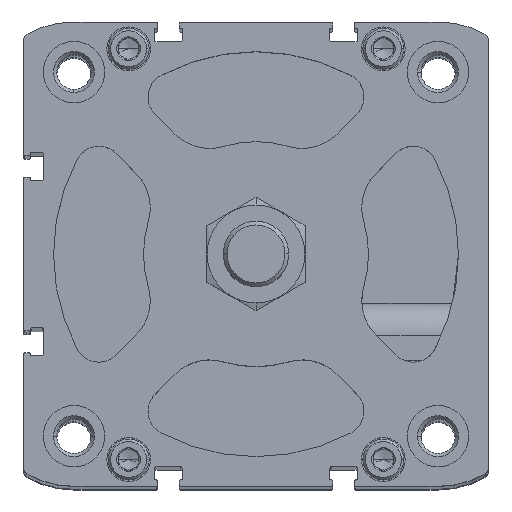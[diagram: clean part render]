
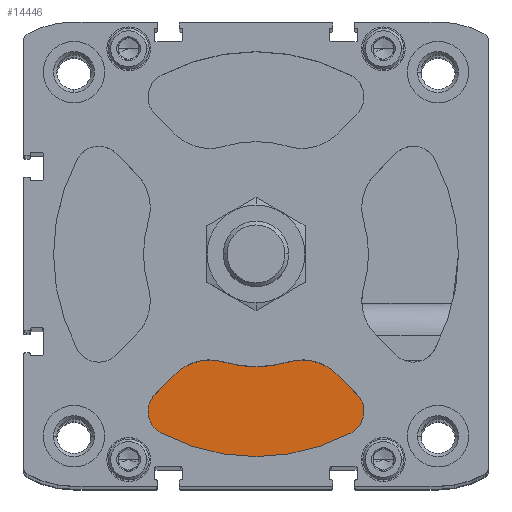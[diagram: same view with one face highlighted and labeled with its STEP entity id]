
A CAD part, top view. The second image highlights one B-rep face of the part: STEP entity #14446.
In plain terms, the highlighted planar face has unit normal (0, 0, 1).
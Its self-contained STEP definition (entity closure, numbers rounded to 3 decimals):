
#390 = DIRECTION ( 'NONE',  ( -1., 0., 0. ) ) ;
#1203 = DIRECTION ( 'NONE',  ( 0., 0., 1. ) ) ;
#1362 = CIRCLE ( 'NONE', #3765, 12. ) ;
#1727 = CIRCLE ( 'NONE', #5835, 6. ) ;
#1740 = FACE_OUTER_BOUND ( 'NONE', #9192, .T. ) ;
#1784 = CARTESIAN_POINT ( 'NONE',  ( 7.885, -26.345, -18.8 ) ) ;
#2201 = DIRECTION ( 'NONE',  ( 0., 0., 1. ) ) ;
#2217 = EDGE_CURVE ( 'NONE', #6511, #14412, #12546, .T. ) ;
#2557 = DIRECTION ( 'NONE',  ( 0., 0., 1. ) ) ;
#2593 = AXIS2_PLACEMENT_3D ( 'NONE', #11536, #7989, #9707 ) ;
#2849 = LINE ( 'NONE', #11113, #11635 ) ;
#2973 = CARTESIAN_POINT ( 'NONE',  ( -20.393, -38.424, -18.8 ) ) ;
#3248 = CARTESIAN_POINT ( 'NONE',  ( -23.205, -43.724, -18.8 ) ) ;
#3340 = CARTESIAN_POINT ( 'NONE',  ( 24.635, -34.181, -18.8 ) ) ;
#3553 = EDGE_CURVE ( 'NONE', #14273, #6511, #2849, .T. ) ;
#3749 = CARTESIAN_POINT ( 'NONE',  ( -24.635, -34.181, -18.8 ) ) ;
#3765 = AXIS2_PLACEMENT_3D ( 'NONE', #15341, #2557, #5459 ) ;
#4056 = CARTESIAN_POINT ( 'NONE',  ( 23.205, -43.724, -18.8 ) ) ;
#4356 = EDGE_CURVE ( 'NONE', #5201, #14663, #12944, .T. ) ;
#4781 = VECTOR ( 'NONE', #16287, 1000. ) ;
#5201 = VERTEX_POINT ( 'NONE', #3340 ) ;
#5459 = DIRECTION ( 'NONE',  ( -1., 0., 0. ) ) ;
#5835 = AXIS2_PLACEMENT_3D ( 'NONE', #2973, #11142, #7817 ) ;
#6244 = DIRECTION ( 'NONE',  ( -1., 0., 0. ) ) ;
#6511 = VERTEX_POINT ( 'NONE', #3749 ) ;
#6679 = EDGE_CURVE ( 'NONE', #16863, #14273, #1362, .T. ) ;
#6719 = EDGE_CURVE ( 'NONE', #14412, #11785, #1727, .T. ) ;
#6774 = AXIS2_PLACEMENT_3D ( 'NONE', #14503, #1203, #6244 ) ;
#6784 = DIRECTION ( 'NONE',  ( 1., 0., 0. ) ) ;
#7178 = ORIENTED_EDGE ( 'NONE', *, *, #2217, .T. ) ;
#7394 = CIRCLE ( 'NONE', #17355, 27.5 ) ;
#7432 = CARTESIAN_POINT ( 'NONE',  ( -19.81, -29.356, -18.8 ) ) ;
#7434 = DIRECTION ( 'NONE',  ( 0., 0., 1. ) ) ;
#7722 = AXIS2_PLACEMENT_3D ( 'NONE', #8754, #2201, #20262 ) ;
#7799 = CARTESIAN_POINT ( 'NONE',  ( 24.635, -34.181, -18.8 ) ) ;
#7817 = DIRECTION ( 'NONE',  ( -1., 0., 0. ) ) ;
#7989 = DIRECTION ( 'NONE',  ( 0., 0., 1. ) ) ;
#8287 = PLANE ( 'NONE',  #9907 ) ;
#8754 = CARTESIAN_POINT ( 'NONE',  ( -20.393, -38.424, -18.8 ) ) ;
#9192 = EDGE_LOOP ( 'NONE', ( #10949, #14572, #20624, #14225, #15031, #19018, #14516, #7178, #19300 ) ) ;
#9684 = CARTESIAN_POINT ( 'NONE',  ( -26.393, -38.424, -18.8 ) ) ;
#9707 = DIRECTION ( 'NONE',  ( -1., 0., 0. ) ) ;
#9804 = CIRCLE ( 'NONE', #12880, 49.5 ) ;
#9907 = AXIS2_PLACEMENT_3D ( 'NONE', #14939, #16347, #6784 ) ;
#10663 = DIRECTION ( 'NONE',  ( -1., 0., 0. ) ) ;
#10949 = ORIENTED_EDGE ( 'NONE', *, *, #17336, .T. ) ;
#11113 = CARTESIAN_POINT ( 'NONE',  ( -19.81, -29.356, -18.8 ) ) ;
#11142 = DIRECTION ( 'NONE',  ( 0., 0., 1. ) ) ;
#11454 = CARTESIAN_POINT ( 'NONE',  ( -7.885, -26.345, -18.8 ) ) ;
#11536 = CARTESIAN_POINT ( 'NONE',  ( 20.393, -38.424, -18.8 ) ) ;
#11635 = VECTOR ( 'NONE', #14440, 1000. ) ;
#11785 = VERTEX_POINT ( 'NONE', #3248 ) ;
#12202 = EDGE_CURVE ( 'NONE', #14663, #16884, #19446, .T. ) ;
#12546 = CIRCLE ( 'NONE', #7722, 6. ) ;
#12880 = AXIS2_PLACEMENT_3D ( 'NONE', #20239, #16597, #390 ) ;
#12944 = LINE ( 'NONE', #7799, #4781 ) ;
#14225 = ORIENTED_EDGE ( 'NONE', *, *, #12202, .T. ) ;
#14273 = VERTEX_POINT ( 'NONE', #7432 ) ;
#14412 = VERTEX_POINT ( 'NONE', #9684 ) ;
#14440 = DIRECTION ( 'NONE',  ( -0.707, -0.707, 0. ) ) ;
#14446 = ADVANCED_FACE ( 'NONE', ( #1740 ), #8287, .T. ) ;
#14503 = CARTESIAN_POINT ( 'NONE',  ( 11.325, -37.842, -18.8 ) ) ;
#14516 = ORIENTED_EDGE ( 'NONE', *, *, #3553, .T. ) ;
#14572 = ORIENTED_EDGE ( 'NONE', *, *, #17259, .T. ) ;
#14663 = VERTEX_POINT ( 'NONE', #20813 ) ;
#14939 = CARTESIAN_POINT ( 'NONE',  ( 0., 0., -18.8 ) ) ;
#15031 = ORIENTED_EDGE ( 'NONE', *, *, #17506, .F. ) ;
#15341 = CARTESIAN_POINT ( 'NONE',  ( -11.325, -37.842, -18.8 ) ) ;
#15627 = CIRCLE ( 'NONE', #2593, 6. ) ;
#16287 = DIRECTION ( 'NONE',  ( -0.707, 0.707, 0. ) ) ;
#16347 = DIRECTION ( 'NONE',  ( 0., 0., 1. ) ) ;
#16597 = DIRECTION ( 'NONE',  ( 0., 0., 1. ) ) ;
#16863 = VERTEX_POINT ( 'NONE', #11454 ) ;
#16884 = VERTEX_POINT ( 'NONE', #1784 ) ;
#17121 = CARTESIAN_POINT ( 'NONE',  ( 0., 0., -18.8 ) ) ;
#17259 = EDGE_CURVE ( 'NONE', #19438, #5201, #15627, .T. ) ;
#17336 = EDGE_CURVE ( 'NONE', #11785, #19438, #9804, .T. ) ;
#17355 = AXIS2_PLACEMENT_3D ( 'NONE', #17121, #7434, #10663 ) ;
#17506 = EDGE_CURVE ( 'NONE', #16863, #16884, #7394, .T. ) ;
#19018 = ORIENTED_EDGE ( 'NONE', *, *, #6679, .T. ) ;
#19300 = ORIENTED_EDGE ( 'NONE', *, *, #6719, .T. ) ;
#19438 = VERTEX_POINT ( 'NONE', #4056 ) ;
#19446 = CIRCLE ( 'NONE', #6774, 12. ) ;
#20239 = CARTESIAN_POINT ( 'NONE',  ( 0., 0., -18.8 ) ) ;
#20262 = DIRECTION ( 'NONE',  ( -1., 0., 0. ) ) ;
#20624 = ORIENTED_EDGE ( 'NONE', *, *, #4356, .T. ) ;
#20813 = CARTESIAN_POINT ( 'NONE',  ( 19.81, -29.356, -18.8 ) ) ;
